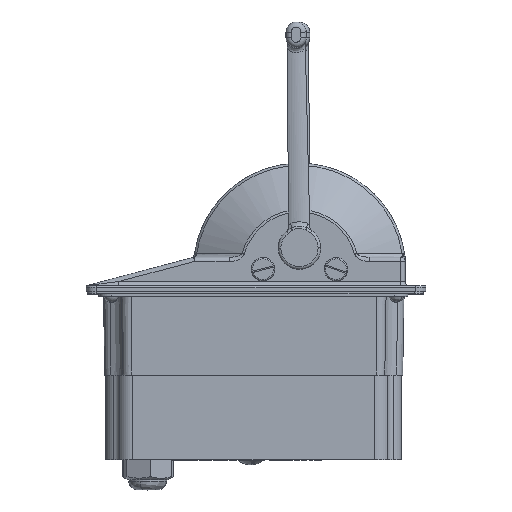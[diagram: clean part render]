
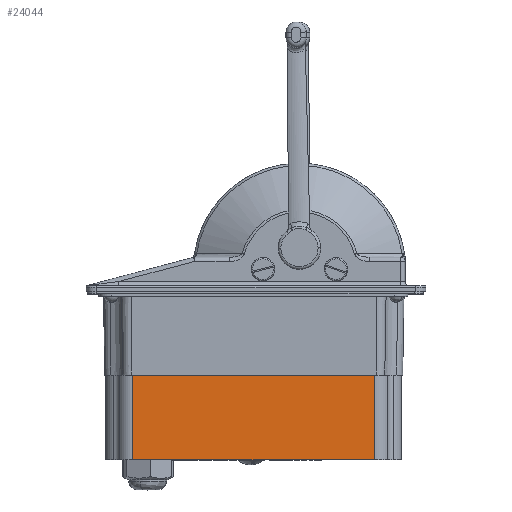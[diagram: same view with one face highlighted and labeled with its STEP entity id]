
A CAD part, top view. The second image highlights one B-rep face of the part: STEP entity #24044.
In plain terms, the highlighted planar face has unit normal (0, 0, 1).
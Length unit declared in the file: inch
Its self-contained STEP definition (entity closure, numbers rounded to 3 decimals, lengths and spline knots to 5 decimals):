
#242 = VECTOR ( 'NONE', #19769, 39.37008 ) ;
#4770 = CARTESIAN_POINT ( 'NONE',  ( 4.84945, 1.31808, 8.63274 ) ) ;
#5698 = CARTESIAN_POINT ( 'NONE',  ( -0.87055, -0.68192, 8.63274 ) ) ;
#5886 = DIRECTION ( 'NONE',  ( -1., 0., 0. ) ) ;
#7866 = ORIENTED_EDGE ( 'NONE', *, *, #43936, .F. ) ;
#7877 = ORIENTED_EDGE ( 'NONE', *, *, #41605, .F. ) ;
#9818 = DIRECTION ( 'NONE',  ( 0., 0., -1. ) ) ;
#10011 = VECTOR ( 'NONE', #20692, 39.37008 ) ;
#10228 = DIRECTION ( 'NONE',  ( 0., 1., 0. ) ) ;
#11388 = CARTESIAN_POINT ( 'NONE',  ( 4.84945, -0.68192, 8.63274 ) ) ;
#12874 = EDGE_CURVE ( 'NONE', #34481, #15088, #28937, .T. ) ;
#13521 = FACE_OUTER_BOUND ( 'NONE', #25846, .T. ) ;
#14200 = AXIS2_PLACEMENT_3D ( 'NONE', #43549, #9818, #24821 ) ;
#15088 = VERTEX_POINT ( 'NONE', #16658 ) ;
#15482 = CARTESIAN_POINT ( 'NONE',  ( -0.87055, 1.31808, 8.63274 ) ) ;
#15746 = VECTOR ( 'NONE', #10228, 39.37008 ) ;
#15914 = VERTEX_POINT ( 'NONE', #26290 ) ;
#16658 = CARTESIAN_POINT ( 'NONE',  ( 4.84945, 1.31808, 8.63274 ) ) ;
#18324 = VERTEX_POINT ( 'NONE', #15482 ) ;
#19769 = DIRECTION ( 'NONE',  ( -1., 0., 0. ) ) ;
#20692 = DIRECTION ( 'NONE',  ( 0., 1., 0. ) ) ;
#24044 = ADVANCED_FACE ( 'NONE', ( #13521 ), #28531, .F. ) ;
#24574 = LINE ( 'NONE', #39610, #39882 ) ;
#24821 = DIRECTION ( 'NONE',  ( 1., 0., 0. ) ) ;
#25846 = EDGE_LOOP ( 'NONE', ( #37252, #7877, #7866, #43289 ) ) ;
#26290 = CARTESIAN_POINT ( 'NONE',  ( -0.87055, -0.68192, 8.63274 ) ) ;
#28531 = PLANE ( 'NONE',  #14200 ) ;
#28937 = LINE ( 'NONE', #43967, #15746 ) ;
#34481 = VERTEX_POINT ( 'NONE', #11388 ) ;
#37252 = ORIENTED_EDGE ( 'NONE', *, *, #48016, .T. ) ;
#38492 = LINE ( 'NONE', #4770, #242 ) ;
#39425 = LINE ( 'NONE', #5698, #10011 ) ;
#39610 = CARTESIAN_POINT ( 'NONE',  ( 4.84945, -0.68192, 8.63274 ) ) ;
#39882 = VECTOR ( 'NONE', #5886, 39.37008 ) ;
#41605 = EDGE_CURVE ( 'NONE', #15914, #18324, #39425, .T. ) ;
#43289 = ORIENTED_EDGE ( 'NONE', *, *, #12874, .T. ) ;
#43549 = CARTESIAN_POINT ( 'NONE',  ( 4.84945, -0.68192, 8.63274 ) ) ;
#43936 = EDGE_CURVE ( 'NONE', #34481, #15914, #24574, .T. ) ;
#43967 = CARTESIAN_POINT ( 'NONE',  ( 4.84945, -0.68192, 8.63274 ) ) ;
#48016 = EDGE_CURVE ( 'NONE', #15088, #18324, #38492, .T. ) ;
